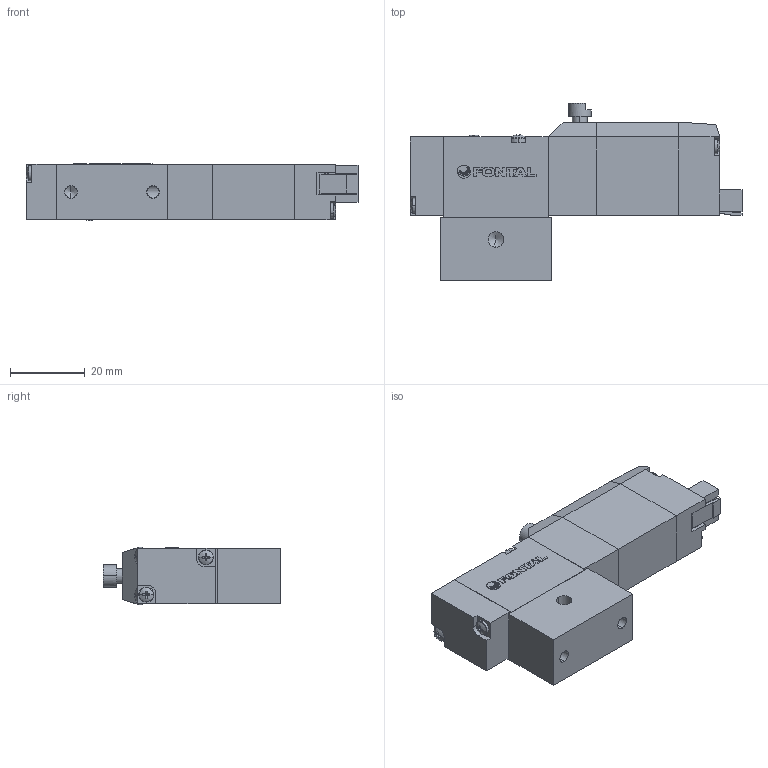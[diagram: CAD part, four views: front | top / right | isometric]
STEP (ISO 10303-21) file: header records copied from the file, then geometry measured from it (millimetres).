
FILE_DESCRIPTION (( 'STEP AP203' ), '1' );
FILE_NAME ('PCL245#-M5-#-SP-#.STEP', '2016-02-04T03:49:44', ( 'Sam Lin' ), ( '' ), 'SwSTEP 2.0', 'SolidWorks 2013', '' );
FILE_SCHEMA (( 'CONFIG_CONTROL_DESIGN' ));
Length unit declared in the file: metre
Products named in the file (12): PC5-7; PC5-8; PC5-1; PC5-10; PC5-2; 手動鈕; ISO 7045 - M2 x 10; ISO 7045 - M2.5 x 25; PCL245#-M5-#-SP-#; PC5-3; PC5-5; PC-MARK
Assembly tree (15 placements, depth 2):
  PCL245#-M5-#-SP-#
    PC5-1
    PC5-2
    ISO 7045 - M2 x 10  x4
    PC5-3
    PC5-5
    PC-MARK
    ISO 7045 - M2.5 x 25  x2
    PC5-7
    PC5-8
    PC5-10
    手動鈕
Bounding box: 89.07 x 47.5 x 15.4 mm (x, y, z)
Volume: 35091.9 mm3; surface area: 15887.1 mm2
Topology: 22 solids, 22 shells, 534 faces, 1320 edges, 820 vertices
Faces by surface type: plane 316, cylinder 95, cone 79, bspline 44
Entity records: 12514 total; most frequent: CARTESIAN_POINT 2523, ORIENTED_EDGE 1792, DIRECTION 1746, EDGE_CURVE 896, VECTOR 596, LINE 596, VERTEX_POINT 580, AXIS2_PLACEMENT_3D 575
